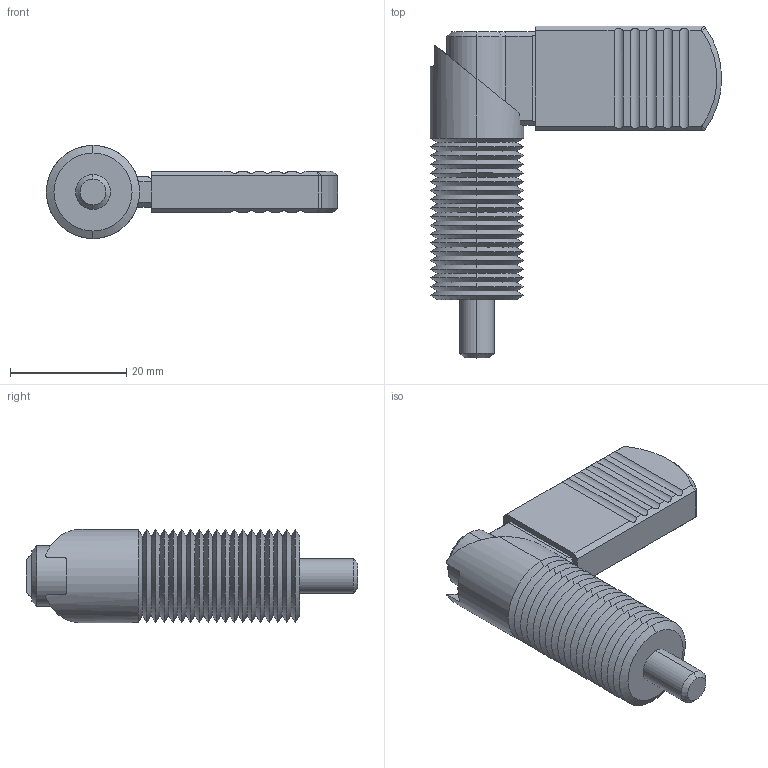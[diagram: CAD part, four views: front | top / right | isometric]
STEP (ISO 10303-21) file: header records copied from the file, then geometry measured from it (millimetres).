
FILE_DESCRIPTION (( 'STEP AP203' ), '1' );
FILE_NAME ('32501.W0366.step', '2016-02-10T17:22:17', ( 'User' ), ( '' ), 'SwSTEP 2.0', 'SolidWorks 2009', '' );
FILE_SCHEMA (( 'CONFIG_CONTROL_DESIGN' ));
Length unit declared in the file: millimetre
Products named in the file (4): 32501.W0366; Part1_32501.W0366; Part2_32501.W0366; Part3_32501.W0366
Assembly tree (3 placements, depth 2):
  32501.W0366
    Part1_32501.W0366
    Part3_32501.W0366
    Part2_32501.W0366
Bounding box: 50 x 57 x 16 mm (x, y, z)
Volume: 8322.6 mm3; surface area: 9627.1 mm2
Topology: 3 solids, 3 shells, 204 faces, 481 edges, 287 vertices
Faces by surface type: cone 91, cylinder 56, plane 53, bspline 4
Entity records: 6306 total; most frequent: CARTESIAN_POINT 1386, ORIENTED_EDGE 962, DIRECTION 936, EDGE_CURVE 481, AXIS2_PLACEMENT_3D 339, VERTEX_POINT 287, VECTOR 258, LINE 258
